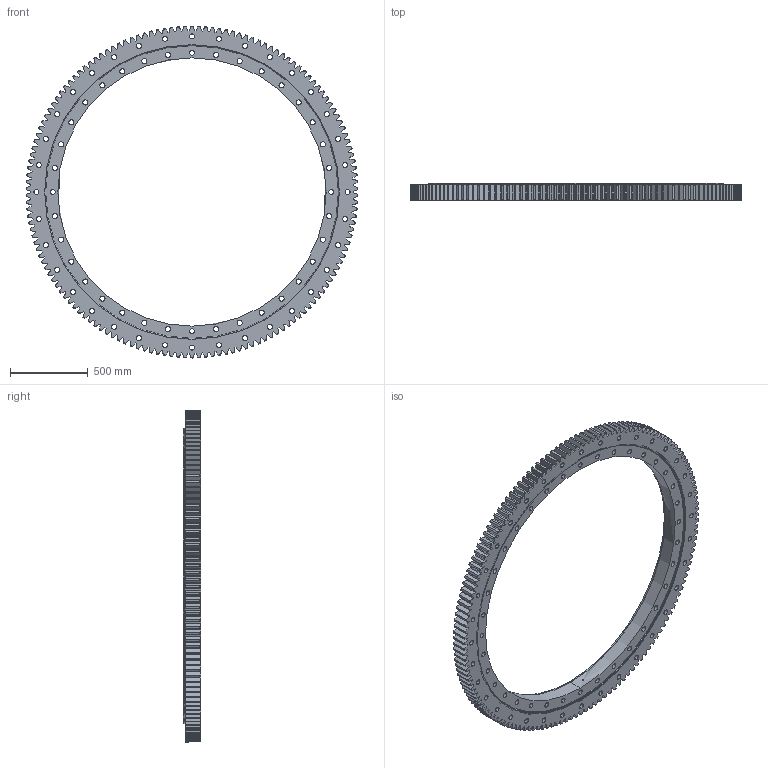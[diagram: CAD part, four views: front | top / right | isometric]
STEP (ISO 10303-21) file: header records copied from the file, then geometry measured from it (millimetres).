
FILE_DESCRIPTION (( 'STEP AP214' ), '1' );
FILE_NAME ('B2150-2-2139AA.STEP', '2022-11-28T14:28:28', ( '' ), ( '' ), 'SwSTEP 2.0', 'SolidWorks 2020', '' );
FILE_SCHEMA (( 'AUTOMOTIVE_DESIGN' ));
Length unit declared in the file: millimetre
Products named in the file (1): B2150-2-2139AA
Bounding box: 2138.95 x 110 x 2139.2 mm (x, y, z)
Volume: 108569938.9 mm3; surface area: 6516459.4 mm2
Topology: 4 solids, 4 shells, 1114 faces, 3280 edges, 2185 vertices
Faces by surface type: cylinder 335, cone 310, bspline 300, plane 169
Entity records: 39322 total; most frequent: CARTESIAN_POINT 11600, ORIENTED_EDGE 6560, DIRECTION 4663, EDGE_CURVE 3280, VERTEX_POINT 2185, AXIS2_PLACEMENT_3D 1784, EDGE_LOOP 1285, B_SPLINE_CURVE_WITH_KNOTS 1216
